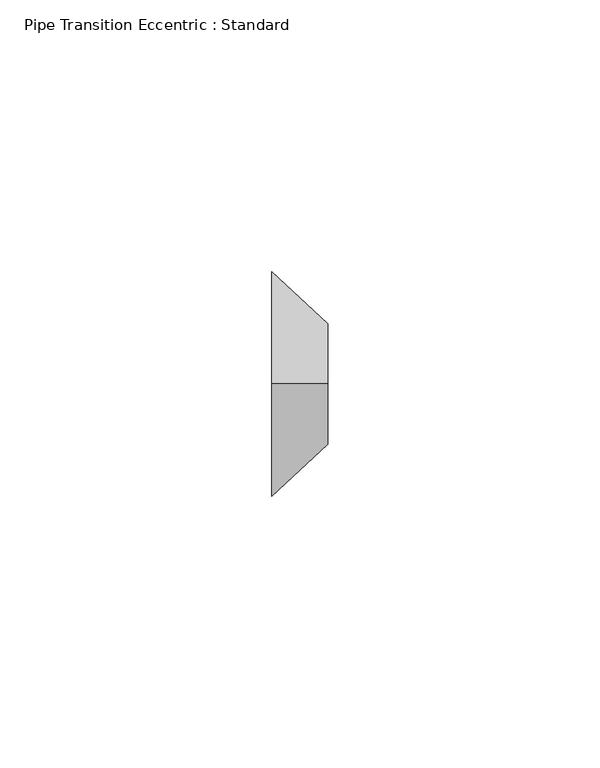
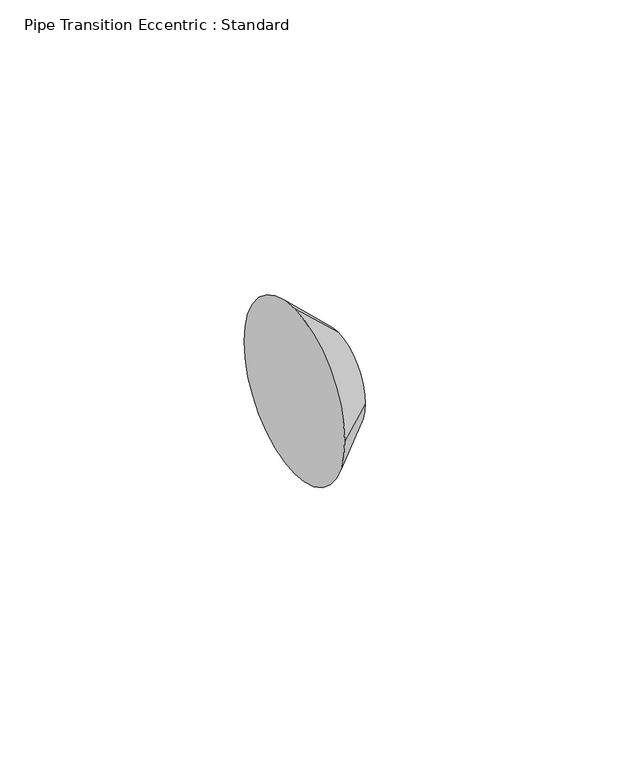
"""IFC4 building model written with IfcOpenShell, lengths in millimetres: pipe fitting geometry, Pipe Transition Eccentric : Standard."""

from ifc_helpers import new_model, si_unit, frame, origin, place, context, project, spatial, polyline, circle_curve, source, transform, mapped, element, save
from ifc_brep_helpers import plane_surface, revolved_surface, advanced_brep


def pipe_transition_eccentric_standard_d2ed9d0f(model_context):
    return source(origin(), model_context, "Body", "AdvancedBrep", [
        advanced_brep(
        [(10.31875, 0.0, 11.1125), (10.31875, -11.1125, 0.0), (10.31875, 0.0, -11.1125), (10.31875, 11.1125, 0.0), (0.0, 0.0, 20.6375), (0.0, 20.6375, 0.0), (0.0, 0.0, -20.6375), (0.0, -20.6375, 0.0)],
        [
            (0, 1, circle_curve(frame((10.31875, 0.0, 0.0), z_axis=(1.0, 0.0, 0.0), x_axis=(0.0, 0.0, 1.0)), 11.1125)),
            (1, 2, circle_curve(frame((10.31875, 0.0, 0.0), z_axis=(1.0, 0.0, 0.0), x_axis=(0.0, -1.0, 0.0)), 11.1125)),
            (2, 3, circle_curve(frame((10.31875, 0.0, 0.0), z_axis=(1.0, 0.0, 0.0), x_axis=(0.0, 0.0, -1.0)), 11.1125)),
            (3, 0, circle_curve(frame((10.31875, 0.0, 0.0), z_axis=(1.0, 0.0, 0.0), x_axis=(0.0, 1.0, 0.0)), 11.1125)),
            (4, 5, circle_curve(frame((0.0, 0.0, 0.0), z_axis=(-1.0, 0.0, 0.0), x_axis=(0.0, 1.0, 0.0)), 20.6375)),
            (5, 6, circle_curve(frame((0.0, 0.0, 0.0), z_axis=(-1.0, 0.0, 0.0), x_axis=(0.0, 0.0, -1.0)), 20.6375)),
            (6, 7, circle_curve(frame((0.0, 0.0, 0.0), z_axis=(-1.0, 0.0, 0.0), x_axis=(0.0, -1.0, 0.0)), 20.6375)),
            (7, 4, circle_curve(frame((0.0, 0.0, 0.0), z_axis=(-1.0, 0.0, 0.0), x_axis=(0.0, 0.0, 1.0)), 20.6375)),
            (7, 1),
            (0, 4),
            (6, 2),
            (5, 3),
        ],
        [
            plane_surface(frame((10.31875, 0.0, 0.0), z_axis=(1.0, 0.0, 0.0), x_axis=(0.0, -1.0, 0.0))),
            plane_surface(frame((0.0, 0.0, 0.0), z_axis=(-1.0, 0.0, 0.0), x_axis=(0.0, -1.0, 0.0))),
            revolved_surface(polyline([(10.31875, 0.0, 11.112500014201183), (0.0, 0.0, 20.6375)]), (22.3572917, 0.0, 0.0), (-1.0, 0.0, 0.0)),
            revolved_surface(polyline([(10.31875, -11.112500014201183, 0.0), (0.0, -20.6375, 0.0)]), (22.3572917, 0.0, 0.0), (-1.0, 0.0, 0.0)),
            revolved_surface(polyline([(10.31875, 0.0, -11.112500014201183), (0.0, 0.0, -20.6375)]), (22.3572917, 0.0, 0.0), (-1.0, 0.0, 0.0)),
            revolved_surface(polyline([(10.31875, 11.112500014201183, 0.0), (0.0, 20.6375, 0.0)]), (22.3572917, 0.0, 0.0), (-1.0, 0.0, 0.0)),
        ],
        [
            (0, [[1, 2, 3, 4]]),
            (1, [[5, 6, 7, 8]]),
            (2, [[-8, 9, -1, 10]]),
            (3, [[-7, 11, -2, -9]]),
            (4, [[-6, 12, -3, -11]]),
            (5, [[-5, -10, -4, -12]]),
        ],
    ),
        advanced_brep(
        [(10.31875, 0.0, 11.1125), (10.31875, -11.1125, 0.0), (10.31875, 0.0, -11.1125), (10.31875, 11.1125, 0.0), (0.0, 0.0, 20.6375), (0.0, 20.6375, 0.0), (0.0, 0.0, -20.6375), (0.0, -20.6375, 0.0)],
        [
            (0, 1, circle_curve(frame((10.31875, 0.0, 0.0), z_axis=(1.0, 0.0, 0.0), x_axis=(0.0, 0.0, 1.0)), 11.1125)),
            (1, 2, circle_curve(frame((10.31875, 0.0, 0.0), z_axis=(1.0, 0.0, 0.0), x_axis=(0.0, -1.0, 0.0)), 11.1125)),
            (2, 3, circle_curve(frame((10.31875, 0.0, 0.0), z_axis=(1.0, 0.0, -1.2984464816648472e-12), x_axis=(-1.298489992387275e-12, 0.0, -1.0)), 11.1125)),
            (3, 0, circle_curve(frame((10.31875, 0.0, 0.0), z_axis=(1.0, 0.0, 0.0), x_axis=(0.0, 1.0, 0.0)), 11.1125)),
            (4, 5, circle_curve(frame((0.0, 0.0, 0.0), z_axis=(-1.0, 0.0, 0.0), x_axis=(0.0, 1.0, 0.0)), 20.6375)),
            (5, 6, circle_curve(frame((0.0, 0.0, 0.0), z_axis=(-1.0, 0.0, 1.2984464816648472e-12), x_axis=(-1.298489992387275e-12, 0.0, -1.0)), 20.6375)),
            (6, 7, circle_curve(frame((0.0, 0.0, 0.0), z_axis=(-1.0, 0.0, 0.0), x_axis=(0.0, -1.0, 0.0)), 20.6375)),
            (7, 4, circle_curve(frame((0.0, 0.0, 0.0), z_axis=(-1.0, 0.0, 0.0), x_axis=(0.0, 0.0, 1.0)), 20.6375)),
            (7, 1),
            (0, 4),
            (6, 2),
            (5, 3),
        ],
        [
            plane_surface(frame((10.31875, 0.0, 0.0), z_axis=(1.0, 0.0, 0.0), x_axis=(0.0, -1.0, 0.0))),
            plane_surface(frame((0.0, 0.0, 0.0), z_axis=(-1.0, 0.0, 0.0), x_axis=(0.0, -1.0, 0.0))),
            revolved_surface(polyline([(10.31875, 0.0, 11.112500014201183), (0.0, 0.0, 20.6375)]), (22.3572917, 0.0, 0.0), (-1.0, 0.0, 0.0)),
            revolved_surface(polyline([(10.31875, -11.112500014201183, 0.0), (0.0, -20.6375, 0.0)]), (22.3572917, 0.0, 0.0), (-1.0, 0.0, 0.0)),
            revolved_surface(polyline([(10.31875, 0.0, -11.112500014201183), (-2.679811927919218e-11, 0.0, -20.637500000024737)]), (22.3572917, 0.0, 0.0), (-1.0, 0.0, 1.2984464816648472e-12)),
            revolved_surface(polyline([(10.31875, 11.112500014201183, 0.0), (0.0, 20.6375, 0.0)]), (22.3572917, 0.0, 0.0), (-1.0, 0.0, 0.0)),
        ],
        [
            (0, [[1, 2, 3, 4]]),
            (1, [[5, 6, 7, 8]]),
            (2, [[-8, 9, -1, 10]]),
            (3, [[-7, 11, -2, -9]]),
            (4, [[-6, 12, -3, -11]]),
            (5, [[-5, -10, -4, -12]]),
        ],
    ),
    ])


if __name__ == "__main__":
    model = new_model("IFC4")
    model_context = context("Model", 3, world=origin())
    ifc_project = project(units=[si_unit("LENGTHUNIT", "METRE", prefix="MILLI")], contexts=[model_context])
    site = spatial("IfcSite", under=ifc_project)
    building = spatial("IfcBuilding", under=site)
    placement = place(None, origin())
    pipe_transition_eccentric_standard_shape = pipe_transition_eccentric_standard_d2ed9d0f(model_context)
    element("IfcPipeFitting", 1, ObjectType="Pipe Transition Eccentric : Standard", at=placement, inside=building, context=model_context, shape_type="MappedRepresentation", body=[
        mapped(pipe_transition_eccentric_standard_shape, transform((0.0, 0.0, 0.0), x_axis=(1.0, 0.0, 0.0), y_axis=(0.0, 1.0, 0.0), z_axis=(0.0, 0.0, 1.0))),
    ])
    save(model, "model.ifc")
